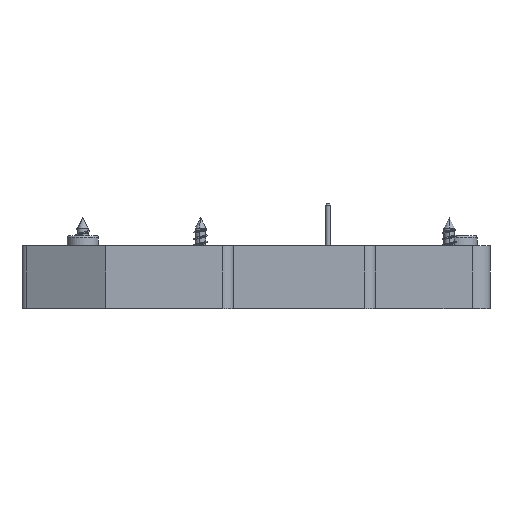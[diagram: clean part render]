
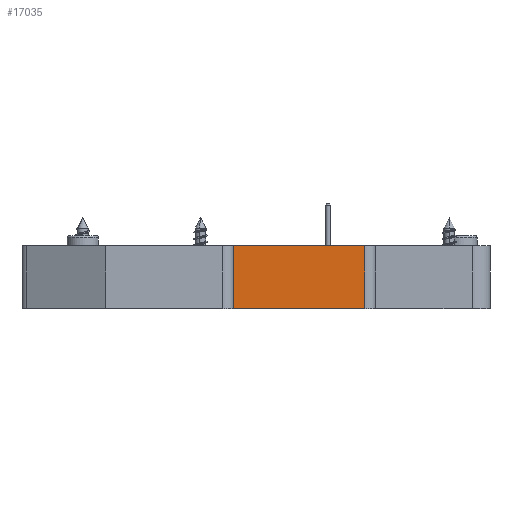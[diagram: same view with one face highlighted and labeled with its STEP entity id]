
A CAD part, front view. The second image highlights one B-rep face of the part: STEP entity #17035.
In plain terms, the highlighted planar face has unit normal (0, -1, 0).
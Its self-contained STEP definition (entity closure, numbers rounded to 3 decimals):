
#444 = LINE ( 'NONE', #7916, #18106 ) ;
#548 = DIRECTION ( 'NONE',  ( 0., 1., 0. ) ) ;
#629 = EDGE_CURVE ( 'NONE', #20867, #2516, #1581, .T. ) ;
#1581 = LINE ( 'NONE', #6062, #10018 ) ;
#2516 = VERTEX_POINT ( 'NONE', #7229 ) ;
#2904 = DIRECTION ( 'NONE',  ( 0., 0., -1. ) ) ;
#4302 = DIRECTION ( 'NONE',  ( 1., 0., 0. ) ) ;
#4622 = EDGE_CURVE ( 'NONE', #14773, #20867, #19184, .T. ) ;
#4761 = VECTOR ( 'NONE', #4868, 1000. ) ;
#4868 = DIRECTION ( 'NONE',  ( 0., 0., -1. ) ) ;
#5803 = AXIS2_PLACEMENT_3D ( 'NONE', #20891, #548, #17342 ) ;
#6062 = CARTESIAN_POINT ( 'NONE',  ( -35.9, -56.6, 0. ) ) ;
#6190 = ORIENTED_EDGE ( 'NONE', *, *, #629, .T. ) ;
#7229 = CARTESIAN_POINT ( 'NONE',  ( -17.5, -56.6, 0. ) ) ;
#7398 = PLANE ( 'NONE',  #5803 ) ;
#7916 = CARTESIAN_POINT ( 'NONE',  ( 0., -56.6, 8.8 ) ) ;
#8101 = VECTOR ( 'NONE', #2904, 1000. ) ;
#8431 = CARTESIAN_POINT ( 'NONE',  ( -35.9, -56.6, 8.8 ) ) ;
#9792 = ORIENTED_EDGE ( 'NONE', *, *, #14511, .F. ) ;
#10018 = VECTOR ( 'NONE', #4302, 1000. ) ;
#10462 = ORIENTED_EDGE ( 'NONE', *, *, #4622, .T. ) ;
#10582 = EDGE_CURVE ( 'NONE', #11414, #2516, #17916, .T. ) ;
#11414 = VERTEX_POINT ( 'NONE', #13635 ) ;
#13635 = CARTESIAN_POINT ( 'NONE',  ( -17.5, -56.6, 8.8 ) ) ;
#14511 = EDGE_CURVE ( 'NONE', #14773, #11414, #444, .T. ) ;
#14705 = CARTESIAN_POINT ( 'NONE',  ( -17.5, -56.6, 1.2 ) ) ;
#14773 = VERTEX_POINT ( 'NONE', #8431 ) ;
#14801 = CARTESIAN_POINT ( 'NONE',  ( -35.9, -56.6, 1.2 ) ) ;
#14823 = FACE_OUTER_BOUND ( 'NONE', #16920, .T. ) ;
#15423 = ORIENTED_EDGE ( 'NONE', *, *, #10582, .F. ) ;
#16008 = DIRECTION ( 'NONE',  ( 1., 0., 0. ) ) ;
#16920 = EDGE_LOOP ( 'NONE', ( #6190, #15423, #9792, #10462 ) ) ;
#17035 = ADVANCED_FACE ( 'NONE', ( #14823 ), #7398, .F. ) ;
#17342 = DIRECTION ( 'NONE',  ( 0., 0., 1. ) ) ;
#17916 = LINE ( 'NONE', #14705, #4761 ) ;
#18106 = VECTOR ( 'NONE', #16008, 1000. ) ;
#18271 = CARTESIAN_POINT ( 'NONE',  ( -35.9, -56.6, 0. ) ) ;
#19184 = LINE ( 'NONE', #14801, #8101 ) ;
#20867 = VERTEX_POINT ( 'NONE', #18271 ) ;
#20891 = CARTESIAN_POINT ( 'NONE',  ( -35.9, -56.6, 1.2 ) ) ;
